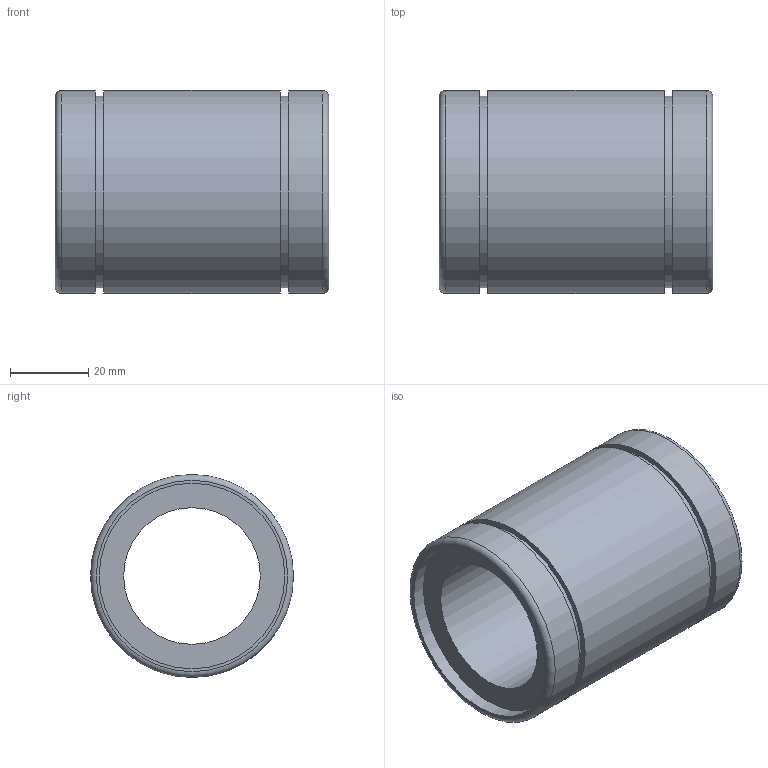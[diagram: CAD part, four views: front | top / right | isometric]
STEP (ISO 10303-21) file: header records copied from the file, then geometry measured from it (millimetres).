
FILE_DESCRIPTION( ( 'Unknown' ), '1' );
FILE_NAME( 'D:/累诀/己绕皋墨飘肺葱胶/11-04-06_档搁累己/01_府聪绢何教/LM/LM35.stp', 'Unknown', ( 'Unknown' ), ( 'Unknown' ), 'PSStep 11.0', 'Unknown', ' ' );
FILE_SCHEMA( ( 'AUTOMOTIVE_DESIGN { 1 0 10303 214 1 1 1 1 }' ) );
Length unit declared in the file: millimetre
Products named in the file (1): 1
Bounding box: 70 x 52 x 52 mm (x, y, z)
Volume: 74487.5 mm3; surface area: 22430.4 mm2
Topology: 1 solids, 1 shells, 18 faces, 30 edges, 20 vertices
Faces by surface type: plane 8, cylinder 8, torus 2
Full cylindrical faces by diameter (mm): 35 x1, 47.5 x2, 49 x2, 52 x3
Entity records: 528 total; most frequent: DIRECTION 74, CARTESIAN_POINT 55, AXIS2_PLACEMENT_3D 37, EDGE_LOOP 36, ORIENTED_EDGE 36, FACE_OUTER_BOUND 28, STYLED_ITEM 18, PRESENTATION_STYLE_ASSIGNMENT 18
